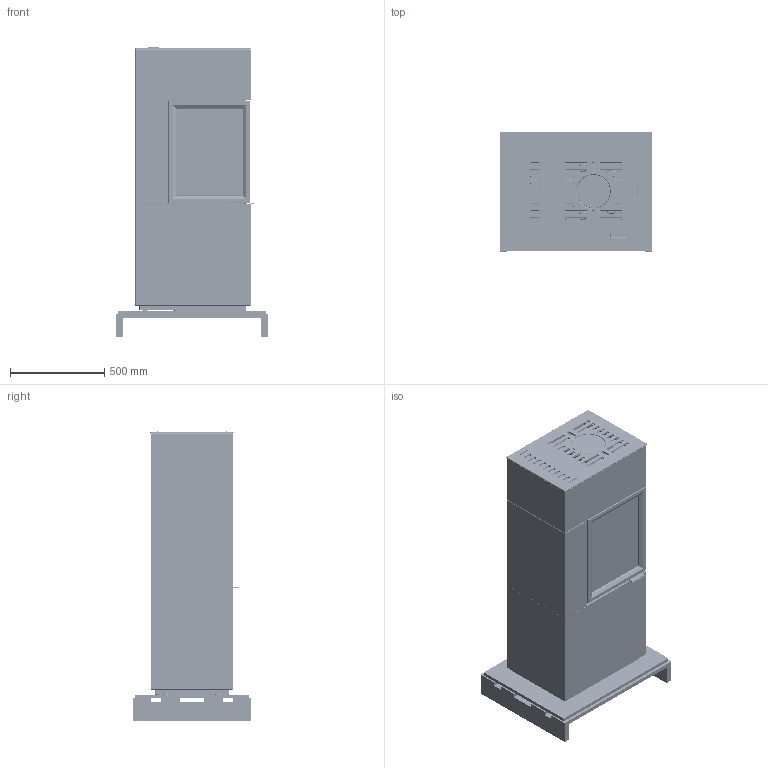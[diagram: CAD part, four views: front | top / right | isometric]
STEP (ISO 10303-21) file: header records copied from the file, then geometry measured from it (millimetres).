
FILE_DESCRIPTION(/* description */ ('Unknown'),/* implementation_level */ '2;1');
FILE_NAME(/* name */ 'Contura 420_420T höger',/* time_stamp */ '2026-04-09T08:14:56+02:00',/* author */ ('Unknown'),/* organization */ ('Unknown'),/* preprocessor_version */ 'ST-DEVELOPER v20',/* originating_system */ 'Solid Edge',/* authorisation */ 'Unknown');
FILE_SCHEMA (('AUTOMOTIVE_DESIGN {1 0 10303 214 3 1 1}'));
Products named in the file (375): DSN1123818; DSN1123819_oa_0; DSN1123124_oa_1; DSN1089377; DSN1104774_oa_2; DSN1089373; DSN1099386; DSN1089374_oa_3; DSN1089386; DSN1074449; DSN1089387; DSN1123089_oa_4; DSN1089428; DSN1083847; FilletWeld_3; DSN1089429; FilletWeld_1; DSN1023399; DSN1083862; DSN1067626; FilletWeld_4; FilletWeld_5; DSN1121543; 416213 Blindnitmutter Sluten M10; DSN1121540; DSN1121542; DSN1121560; 016710 Skruv M6SF TT M6x16 fzb; 803700 Ställbar fot M10 kort; ExtrudedProtrusion_1; DSN1125092; ExtrudedProtrusion_2; ExtrudedProtrusion_3; FilletWeld_2; FilletWeld_6; FilletWeld_9; FilletWeld_12; FilletWeld_17; FilletWeld_23; GrooveWeld_1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
Assembly tree (733 placements, depth 6):
  DSN1123818
    DSN1123819_oa_0
      DSN1123124_oa_1
        DSN1089377
          DSN1104774_oa_2
          DSN1089373
          DSN1099386
          DSN1089374_oa_3
          DSN1089386
          DSN1074449  x2
          DSN1089387
          DSN1123089_oa_4
          DSN1089428
          DSN1083847
          FilletWeld_3
          DSN1089429
          FilletWeld_1
          DSN1023399  x2
          DSN1083862
          DSN1067626
          FilletWeld_4
          FilletWeld_5
          DSN1121543
            416213 Blindnitmutter Sluten M10  x4
            DSN1121540
            DSN1121542
            DSN1121560
            016710 Skruv M6SF TT M6x16 fzb  x4
            FilletWeld_1
            803700 Ställbar fot M10 kort  x4
            ExtrudedProtrusion_1
            DSN1125092  x2
            ExtrudedProtrusion_2
            ExtrudedProtrusion_3
            FilletWeld_2
          FilletWeld_6
          FilletWeld_9
          FilletWeld_12
          FilletWeld_17
          FilletWeld_23
          GrooveWeld_1
          GrooveWeld_2
          DSN1121563
          GrooveWeld_4
          FilletWeld_25
          FilletWeld_26
          GrooveWeld_10
          FilletWeld_30
          GrooveWeld_18
          GrooveWeld_17
          GrooveWeld_16
          GrooveWeld_15
          GrooveWeld_14
          GrooveWeld_19
          GrooveWeld_13
          FilletWeld_33
          FilletWeld_32
          FilletWeld_34
          ExtrudedProtrusion_5
          ExtrudedProtrusion_6
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Bounding box: 800 x 630 x 1538.19 mm (x, y, z)
Volume: 171363777.2 mm3; surface area: 27010362.5 mm2
Topology: 829 solids, 830 shells, 35849 faces, 90147 edges, 55722 vertices
Faces by surface type: plane 16328, cylinder 11188, bspline 3116, torus 2824, cone 1732, sphere 661
Full cylindrical faces by diameter (mm): 1 x1, 1.5 x2, 2.8 x16, 3.242 x6, 3.291 x66, 3.3 x16, 3.4 x2, 3.5 x31, 3.6 x2, 3.614 x4, 3.65 x8, 3.7 x2, 3.8 x10, 4 x84, 4.134 x8, 4.15 x4, 4.2 x63, 4.3 x19, 4.334 x4, 4.5 x103, 4.6 x8, 4.8 x2, 4.917 x76, 4.918 x4, 5 x126, 5.2 x8, 5.3 x16, 5.5 x36, 5.6 x53, 5.7 x1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
Entity records: 663159 total; most frequent: CARTESIAN_POINT 194234, DIRECTION 93066, ORIENTED_EDGE 92848, EDGE_CURVE 46424, AXIS2_PLACEMENT_3D 32648, VERTEX_POINT 30094, LINE 27770, VECTOR 27770
